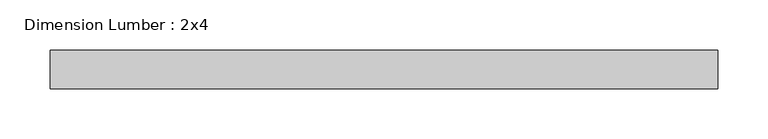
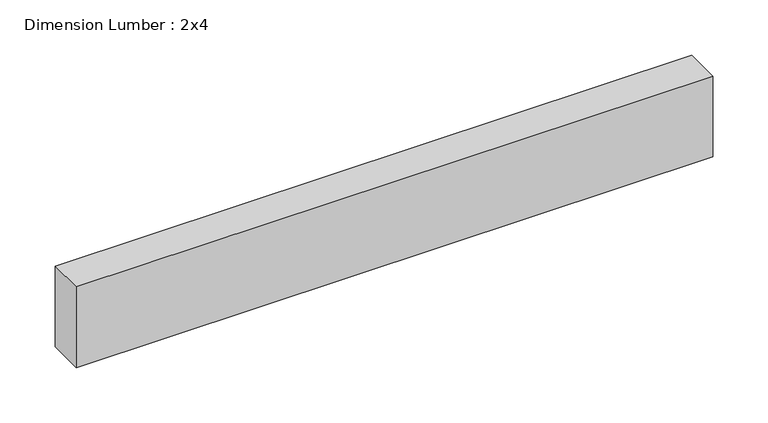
"""IFC4 building model written with IfcOpenShell, lengths in millimetres: beam geometry, Dimension Lumber : 2x4."""

from ifc_helpers import new_model, si_unit, frame, origin, place, context, project, spatial, polyline, outline, extrude, source, transform, mapped, element, save


def dimension_lumber_2x4_1b3385a6(model_context):
    return source(origin(), model_context, "Body", "SweptSolid", [
        extrude(outline(polyline([(332.0520833, 19.05), (332.0520833, -19.05), (-332.0520833, -19.05), (-332.0520833, 19.05), (332.0520833, 19.05)])), frame((0.0, 0.0, -44.45), z_axis=(0.0, 0.0, 1.0), x_axis=(1.0, 0.0, 0.0)), (0.0, 0.0, 1.0), 88.9),
    ])


if __name__ == "__main__":
    model = new_model("IFC4")
    model_context = context("Model", 3, world=origin())
    ifc_project = project(units=[si_unit("LENGTHUNIT", "METRE", prefix="MILLI")], contexts=[model_context])
    site = spatial("IfcSite", under=ifc_project)
    building = spatial("IfcBuilding", under=site)
    placement = place(None, origin())
    dimension_lumber_2x4_shape = dimension_lumber_2x4_1b3385a6(model_context)
    element("IfcBeam", 1, ObjectType="Dimension Lumber : 2x4", at=placement, inside=building, context=model_context, shape_type="MappedRepresentation", body=[
        mapped(dimension_lumber_2x4_shape, transform((0.0, 0.0, 0.0), x_axis=(1.0, 0.0, 0.0), y_axis=(0.0, 1.0, 0.0), z_axis=(0.0, 0.0, 1.0))),
    ])
    save(model, "model.ifc")
